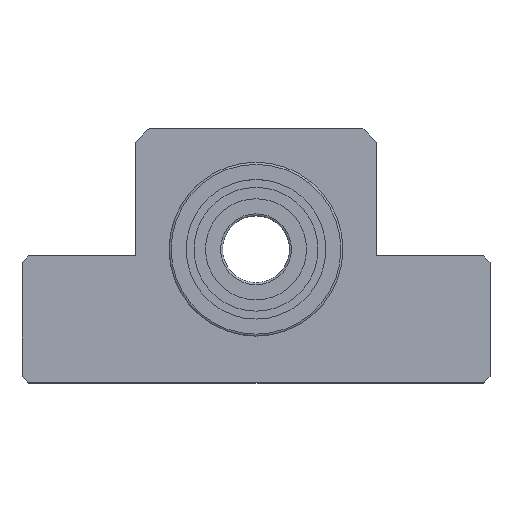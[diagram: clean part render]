
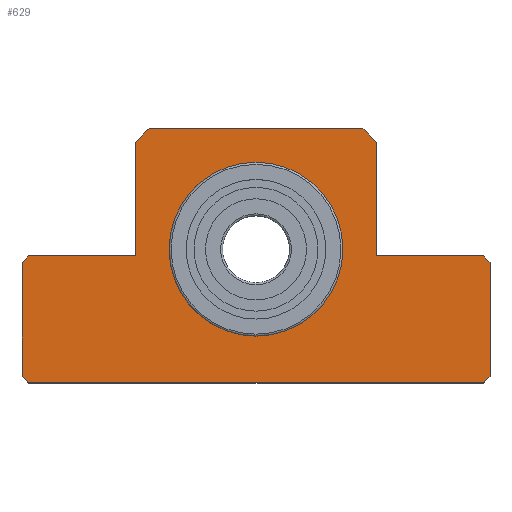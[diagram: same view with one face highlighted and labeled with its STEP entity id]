
A CAD part, top view. The second image highlights one B-rep face of the part: STEP entity #629.
In plain terms, the highlighted planar face has unit normal (0, 0, 1).
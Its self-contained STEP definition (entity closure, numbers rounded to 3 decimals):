
#53=CIRCLE('',#700,13.);
#156=ORIENTED_EDGE('',*,*,#267,.F.);
#157=ORIENTED_EDGE('',*,*,#223,.T.);
#158=ORIENTED_EDGE('',*,*,#227,.T.);
#159=ORIENTED_EDGE('',*,*,#230,.T.);
#160=ORIENTED_EDGE('',*,*,#235,.T.);
#161=ORIENTED_EDGE('',*,*,#238,.T.);
#162=ORIENTED_EDGE('',*,*,#241,.T.);
#163=ORIENTED_EDGE('',*,*,#244,.T.);
#164=ORIENTED_EDGE('',*,*,#248,.T.);
#165=ORIENTED_EDGE('',*,*,#251,.T.);
#166=ORIENTED_EDGE('',*,*,#254,.T.);
#167=ORIENTED_EDGE('',*,*,#257,.T.);
#168=ORIENTED_EDGE('',*,*,#260,.T.);
#169=ORIENTED_EDGE('',*,*,#263,.T.);
#170=ORIENTED_EDGE('',*,*,#269,.T.);
#223=EDGE_CURVE('',#295,#296,#353,.T.);
#227=EDGE_CURVE('',#296,#299,#357,.T.);
#230=EDGE_CURVE('',#299,#301,#360,.T.);
#235=EDGE_CURVE('',#301,#305,#363,.T.);
#238=EDGE_CURVE('',#305,#307,#366,.T.);
#241=EDGE_CURVE('',#307,#309,#369,.T.);
#244=EDGE_CURVE('',#309,#311,#372,.T.);
#248=EDGE_CURVE('',#311,#314,#375,.T.);
#251=EDGE_CURVE('',#314,#316,#378,.T.);
#254=EDGE_CURVE('',#316,#318,#381,.T.);
#257=EDGE_CURVE('',#318,#320,#384,.T.);
#260=EDGE_CURVE('',#320,#322,#387,.T.);
#263=EDGE_CURVE('',#322,#324,#390,.T.);
#267=EDGE_CURVE('',#327,#327,#53,.T.);
#269=EDGE_CURVE('',#324,#295,#393,.T.);
#295=VERTEX_POINT('',#954);
#296=VERTEX_POINT('',#955);
#299=VERTEX_POINT('',#963);
#301=VERTEX_POINT('',#969);
#305=VERTEX_POINT('',#979);
#307=VERTEX_POINT('',#985);
#309=VERTEX_POINT('',#991);
#311=VERTEX_POINT('',#997);
#314=VERTEX_POINT('',#1005);
#316=VERTEX_POINT('',#1011);
#318=VERTEX_POINT('',#1017);
#320=VERTEX_POINT('',#1023);
#322=VERTEX_POINT('',#1029);
#324=VERTEX_POINT('',#1035);
#327=VERTEX_POINT('',#1043);
#353=LINE('',#953,#395);
#357=LINE('',#962,#399);
#360=LINE('',#968,#402);
#363=LINE('',#978,#405);
#366=LINE('',#984,#408);
#369=LINE('',#990,#411);
#372=LINE('',#996,#414);
#375=LINE('',#1004,#417);
#378=LINE('',#1010,#420);
#381=LINE('',#1016,#423);
#384=LINE('',#1022,#426);
#387=LINE('',#1028,#429);
#390=LINE('',#1034,#432);
#393=LINE('',#1047,#435);
#395=VECTOR('',#761,1000.);
#399=VECTOR('',#767,1000.);
#402=VECTOR('',#772,1000.);
#405=VECTOR('',#781,1000.);
#408=VECTOR('',#786,1000.);
#411=VECTOR('',#791,1000.);
#414=VECTOR('',#796,1000.);
#417=VECTOR('',#803,1000.);
#420=VECTOR('',#808,1000.);
#423=VECTOR('',#813,1000.);
#426=VECTOR('',#818,1000.);
#429=VECTOR('',#823,1000.);
#432=VECTOR('',#828,1000.);
#435=VECTOR('',#841,1000.);
#459=EDGE_LOOP('',(#156));
#460=EDGE_LOOP('',(#157,#158,#159,#160,#161,#162,#163,#164,#165,#166,#167,
#168,#169,#170));
#535=FACE_BOUND('',#459,.T.);
#536=FACE_BOUND('',#460,.T.);
#604=PLANE('',#704);
#629=ADVANCED_FACE('',(#535,#536),#604,.T.);
#700=AXIS2_PLACEMENT_3D('',#1042,#835,#836);
#704=AXIS2_PLACEMENT_3D('',#1050,#845,#846);
#761=DIRECTION('',(-0.707,-0.707,0.));
#767=DIRECTION('',(0.,-1.,0.));
#772=DIRECTION('',(0.707,-0.707,0.));
#781=DIRECTION('',(1.,0.,0.));
#786=DIRECTION('',(0.707,0.707,0.));
#791=DIRECTION('',(0.,1.,0.));
#796=DIRECTION('',(-0.707,0.707,0.));
#803=DIRECTION('',(-1.,0.,0.));
#808=DIRECTION('',(0.,1.,0.));
#813=DIRECTION('',(-0.707,0.707,0.));
#818=DIRECTION('',(-1.,0.,0.));
#823=DIRECTION('',(-0.707,-0.707,0.));
#828=DIRECTION('',(0.,-1.,0.));
#835=DIRECTION('',(0.,0.,1.));
#836=DIRECTION('',(1.,0.,0.));
#841=DIRECTION('',(-1.,0.,0.));
#845=DIRECTION('',(0.,0.,1.));
#846=DIRECTION('',(1.,0.,0.));
#953=CARTESIAN_POINT('',(-34.,-1.,0.));
#954=CARTESIAN_POINT('',(-34.,-1.,0.));
#955=CARTESIAN_POINT('',(-35.,-2.,0.));
#962=CARTESIAN_POINT('',(-35.,-2.,0.));
#963=CARTESIAN_POINT('',(-35.,-19.,0.));
#968=CARTESIAN_POINT('',(-35.,-19.,0.));
#969=CARTESIAN_POINT('',(-34.,-20.,0.));
#978=CARTESIAN_POINT('',(-34.,-20.,0.));
#979=CARTESIAN_POINT('',(34.,-20.,0.));
#984=CARTESIAN_POINT('',(34.,-20.,0.));
#985=CARTESIAN_POINT('',(35.,-19.,0.));
#990=CARTESIAN_POINT('',(35.,-19.,0.));
#991=CARTESIAN_POINT('',(35.,-2.,0.));
#996=CARTESIAN_POINT('',(35.,-2.,0.));
#997=CARTESIAN_POINT('',(34.,-1.,0.));
#1004=CARTESIAN_POINT('',(34.,-1.,0.));
#1005=CARTESIAN_POINT('',(18.,-1.,0.));
#1010=CARTESIAN_POINT('',(18.,-1.,0.));
#1011=CARTESIAN_POINT('',(18.,16.,0.));
#1016=CARTESIAN_POINT('',(18.,16.,0.));
#1017=CARTESIAN_POINT('',(16.,18.,0.));
#1022=CARTESIAN_POINT('',(16.,18.,0.));
#1023=CARTESIAN_POINT('',(-16.,18.,0.));
#1028=CARTESIAN_POINT('',(-16.,18.,0.));
#1029=CARTESIAN_POINT('',(-18.,16.,0.));
#1034=CARTESIAN_POINT('',(-18.,16.,0.));
#1035=CARTESIAN_POINT('',(-18.,-1.,0.));
#1042=CARTESIAN_POINT('',(0.,0.,0.));
#1043=CARTESIAN_POINT('',(13.,0.,0.));
#1047=CARTESIAN_POINT('',(-18.,-1.,0.));
#1050=CARTESIAN_POINT('',(0.,0.,0.));
